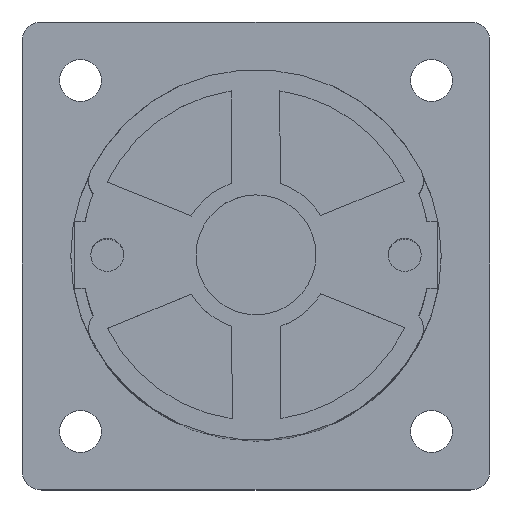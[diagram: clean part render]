
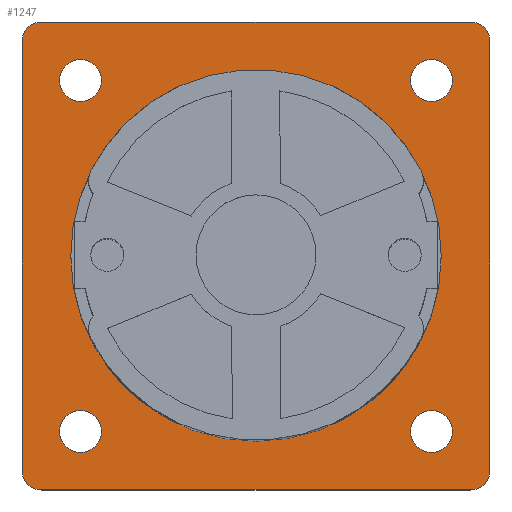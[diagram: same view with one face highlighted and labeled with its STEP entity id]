
A CAD part, top view. The second image highlights one B-rep face of the part: STEP entity #1247.
In plain terms, the highlighted planar face has unit normal (0, 0, 1).
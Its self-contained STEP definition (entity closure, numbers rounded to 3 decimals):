
#337=FACE_BOUND('',#3295,.T.);
#338=FACE_BOUND('',#3296,.T.);
#339=FACE_BOUND('',#3297,.T.);
#340=FACE_BOUND('',#3298,.T.);
#341=FACE_BOUND('',#3299,.T.);
#342=FACE_BOUND('',#3300,.T.);
#570=CIRCLE('',#13812,2.15);
#574=CIRCLE('',#13819,2.15);
#578=CIRCLE('',#13826,2.15);
#582=CIRCLE('',#13833,2.15);
#603=CIRCLE('',#13875,19.);
#648=CIRCLE('',#13970,2.);
#649=CIRCLE('',#13972,2.);
#650=CIRCLE('',#13974,2.);
#651=CIRCLE('',#13976,2.);
#1247=ADVANCED_FACE('',(#337,#338,#339,#340,#341,#342),#1958,.F.);
#1958=PLANE('',#13983);
#3295=EDGE_LOOP('',(#4706,#4707,#4708,#4709,#4710,#4711,#4712,#4713));
#3296=EDGE_LOOP('',(#4714));
#3297=EDGE_LOOP('',(#4715));
#3298=EDGE_LOOP('',(#4716));
#3299=EDGE_LOOP('',(#4717));
#3300=EDGE_LOOP('',(#4718));
#4706=ORIENTED_EDGE('',*,*,#9654,.F.);
#4707=ORIENTED_EDGE('',*,*,#9641,.F.);
#4708=ORIENTED_EDGE('',*,*,#9651,.F.);
#4709=ORIENTED_EDGE('',*,*,#9644,.F.);
#4710=ORIENTED_EDGE('',*,*,#9652,.F.);
#4711=ORIENTED_EDGE('',*,*,#9647,.F.);
#4712=ORIENTED_EDGE('',*,*,#9653,.F.);
#4713=ORIENTED_EDGE('',*,*,#9650,.F.);
#4714=ORIENTED_EDGE('',*,*,#9510,.F.);
#4715=ORIENTED_EDGE('',*,*,#9425,.T.);
#4716=ORIENTED_EDGE('',*,*,#9421,.T.);
#4717=ORIENTED_EDGE('',*,*,#9417,.T.);
#4718=ORIENTED_EDGE('',*,*,#9413,.T.);
#8048=VERTEX_POINT('',#19015);
#8052=VERTEX_POINT('',#19026);
#8056=VERTEX_POINT('',#19037);
#8060=VERTEX_POINT('',#19048);
#8141=VERTEX_POINT('',#19215);
#8230=VERTEX_POINT('',#19483);
#8231=VERTEX_POINT('',#19485);
#8232=VERTEX_POINT('',#19489);
#8233=VERTEX_POINT('',#19491);
#8234=VERTEX_POINT('',#19495);
#8235=VERTEX_POINT('',#19497);
#8236=VERTEX_POINT('',#19501);
#8237=VERTEX_POINT('',#19503);
#9413=EDGE_CURVE('',#8048,#8048,#570,.T.);
#9417=EDGE_CURVE('',#8052,#8052,#574,.T.);
#9421=EDGE_CURVE('',#8056,#8056,#578,.T.);
#9425=EDGE_CURVE('',#8060,#8060,#582,.T.);
#9510=EDGE_CURVE('',#8141,#8141,#603,.T.);
#9641=EDGE_CURVE('',#8231,#8230,#648,.T.);
#9644=EDGE_CURVE('',#8233,#8232,#649,.T.);
#9647=EDGE_CURVE('',#8235,#8234,#650,.T.);
#9650=EDGE_CURVE('',#8237,#8236,#651,.T.);
#9651=EDGE_CURVE('',#8232,#8231,#11432,.T.);
#9652=EDGE_CURVE('',#8234,#8233,#11433,.T.);
#9653=EDGE_CURVE('',#8236,#8235,#11434,.T.);
#9654=EDGE_CURVE('',#8230,#8237,#11435,.T.);
#11432=LINE('',#19506,#12693);
#11433=LINE('',#19508,#12694);
#11434=LINE('',#19510,#12695);
#11435=LINE('',#19512,#12696);
#12693=VECTOR('',#15752,1.);
#12694=VECTOR('',#15755,1.);
#12695=VECTOR('',#15758,1.);
#12696=VECTOR('',#15761,1.);
#13812=AXIS2_PLACEMENT_3D('',#19014,#15284,#15285);
#13819=AXIS2_PLACEMENT_3D('',#19025,#15298,#15299);
#13826=AXIS2_PLACEMENT_3D('',#19036,#15312,#15313);
#13833=AXIS2_PLACEMENT_3D('',#19047,#15326,#15327);
#13875=AXIS2_PLACEMENT_3D('',#19214,#15454,#15455);
#13970=AXIS2_PLACEMENT_3D('',#19486,#15730,#15731);
#13972=AXIS2_PLACEMENT_3D('',#19492,#15736,#15737);
#13974=AXIS2_PLACEMENT_3D('',#19498,#15742,#15743);
#13976=AXIS2_PLACEMENT_3D('',#19504,#15748,#15749);
#13983=AXIS2_PLACEMENT_3D('',#19515,#15766,#15767);
#15284=DIRECTION('',(0.,0.,-1.));
#15285=DIRECTION('',(-1.,0.,0.));
#15298=DIRECTION('',(0.,0.,-1.));
#15299=DIRECTION('',(-1.,0.,0.));
#15312=DIRECTION('',(0.,0.,-1.));
#15313=DIRECTION('',(-1.,0.,0.));
#15326=DIRECTION('',(0.,0.,-1.));
#15327=DIRECTION('',(-1.,0.,0.));
#15454=DIRECTION('',(0.,0.,1.));
#15455=DIRECTION('',(-1.,0.,0.));
#15730=DIRECTION('',(0.,0.,-1.));
#15731=DIRECTION('',(1.,0.,0.));
#15736=DIRECTION('',(0.,0.,-1.));
#15737=DIRECTION('',(1.,0.,0.));
#15742=DIRECTION('',(0.,0.,-1.));
#15743=DIRECTION('',(1.,0.,0.));
#15748=DIRECTION('',(0.,0.,-1.));
#15749=DIRECTION('',(1.,0.,0.));
#15752=DIRECTION('',(0.,-1.,0.));
#15755=DIRECTION('',(1.,0.,0.));
#15758=DIRECTION('',(0.,1.,0.));
#15761=DIRECTION('',(-1.,0.,0.));
#15766=DIRECTION('',(0.,0.,-1.));
#15767=DIRECTION('',(-1.,0.,0.));
#19014=CARTESIAN_POINT('',(18.,-18.,2.5));
#19015=CARTESIAN_POINT('',(15.85,-18.,2.5));
#19025=CARTESIAN_POINT('',(18.,18.,2.5));
#19026=CARTESIAN_POINT('',(15.85,18.,2.5));
#19036=CARTESIAN_POINT('',(-18.,18.,2.5));
#19037=CARTESIAN_POINT('',(-20.15,18.,2.5));
#19047=CARTESIAN_POINT('',(-18.,-18.,2.5));
#19048=CARTESIAN_POINT('',(-20.15,-18.,2.5));
#19214=CARTESIAN_POINT('',(0.,0.,2.5));
#19215=CARTESIAN_POINT('',(-19.,0.,2.5));
#19483=CARTESIAN_POINT('',(22.,-24.,2.5));
#19485=CARTESIAN_POINT('',(24.,-22.,2.5));
#19486=CARTESIAN_POINT('',(22.,-22.,2.5));
#19489=CARTESIAN_POINT('',(24.,22.,2.5));
#19491=CARTESIAN_POINT('',(22.,24.,2.5));
#19492=CARTESIAN_POINT('',(22.,22.,2.5));
#19495=CARTESIAN_POINT('',(-22.,24.,2.5));
#19497=CARTESIAN_POINT('',(-24.,22.,2.5));
#19498=CARTESIAN_POINT('',(-22.,22.,2.5));
#19501=CARTESIAN_POINT('',(-24.,-22.,2.5));
#19503=CARTESIAN_POINT('',(-22.,-24.,2.5));
#19504=CARTESIAN_POINT('',(-22.,-22.,2.5));
#19506=CARTESIAN_POINT('',(24.,22.,2.5));
#19508=CARTESIAN_POINT('',(-22.,24.,2.5));
#19510=CARTESIAN_POINT('',(-24.,-22.,2.5));
#19512=CARTESIAN_POINT('',(22.,-24.,2.5));
#19515=CARTESIAN_POINT('',(-22.,-22.,2.5));
